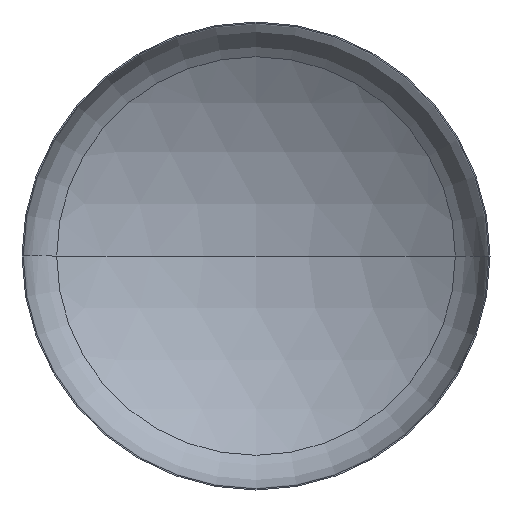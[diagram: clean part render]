
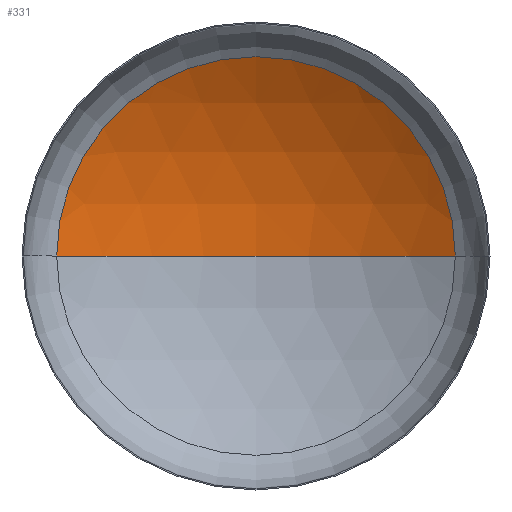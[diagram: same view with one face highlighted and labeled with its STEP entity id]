
A CAD part, front view. The second image highlights one B-rep face of the part: STEP entity #331.
In plain terms, the highlighted spherical face has radius 2560 mm.
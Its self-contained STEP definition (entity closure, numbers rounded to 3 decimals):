
#3 = CIRCLE ( 'NONE', #142, 1362.86 ) ;
#6 = ORIENTED_EDGE ( 'NONE', *, *, #231, .T. ) ;
#11 = EDGE_LOOP ( 'NONE', ( #31, #6, #19 ) ) ;
#19 = ORIENTED_EDGE ( 'NONE', *, *, #221, .T. ) ;
#21 = DIRECTION ( 'NONE',  ( 1., 0., 0. ) ) ;
#31 = ORIENTED_EDGE ( 'NONE', *, *, #235, .F. ) ;
#32 = VERTEX_POINT ( 'NONE', #293 ) ;
#47 = VERTEX_POINT ( 'NONE', #361 ) ;
#66 = AXIS2_PLACEMENT_3D ( 'NONE', #125, #81, #122 ) ;
#81 = DIRECTION ( 'NONE',  ( 0., 0., -1. ) ) ;
#84 = VERTEX_POINT ( 'NONE', #219 ) ;
#122 = DIRECTION ( 'NONE',  ( -1., 0., 0. ) ) ;
#125 = CARTESIAN_POINT ( 'NONE',  ( 0., -1727.283, 0. ) ) ;
#133 = FACE_OUTER_BOUND ( 'NONE', #11, .T. ) ;
#138 = AXIS2_PLACEMENT_3D ( 'NONE', #209, #205, #207 ) ;
#140 = AXIS2_PLACEMENT_3D ( 'NONE', #357, #220, #151 ) ;
#142 = AXIS2_PLACEMENT_3D ( 'NONE', #341, #399, #21 ) ;
#151 = DIRECTION ( 'NONE',  ( -1., 0., 0. ) ) ;
#205 = DIRECTION ( 'NONE',  ( 0., 0., 1. ) ) ;
#206 = SPHERICAL_SURFACE ( 'NONE', #66, 2560. ) ;
#207 = DIRECTION ( 'NONE',  ( 1., 0., 0. ) ) ;
#209 = CARTESIAN_POINT ( 'NONE',  ( 0., -1727.283, 0. ) ) ;
#219 = CARTESIAN_POINT ( 'NONE',  ( 1362.86, 439.792, 0. ) ) ;
#220 = DIRECTION ( 'NONE',  ( 0., 0., -1. ) ) ;
#221 = EDGE_CURVE ( 'NONE', #84, #47, #3, .T. ) ;
#231 = EDGE_CURVE ( 'NONE', #32, #84, #355, .T. ) ;
#235 = EDGE_CURVE ( 'NONE', #32, #47, #407, .T. ) ;
#293 = CARTESIAN_POINT ( 'NONE',  ( 0., 832.717, 0. ) ) ;
#331 = ADVANCED_FACE ( 'NONE', ( #133 ), #206, .F. ) ;
#341 = CARTESIAN_POINT ( 'NONE',  ( 0., 439.792, 0. ) ) ;
#355 = CIRCLE ( 'NONE', #140, 2560. ) ;
#357 = CARTESIAN_POINT ( 'NONE',  ( 0., -1727.283, 0. ) ) ;
#361 = CARTESIAN_POINT ( 'NONE',  ( -1362.86, 439.792, 0. ) ) ;
#399 = DIRECTION ( 'NONE',  ( 0., -1., 0. ) ) ;
#407 = CIRCLE ( 'NONE', #138, 2560. ) ;
